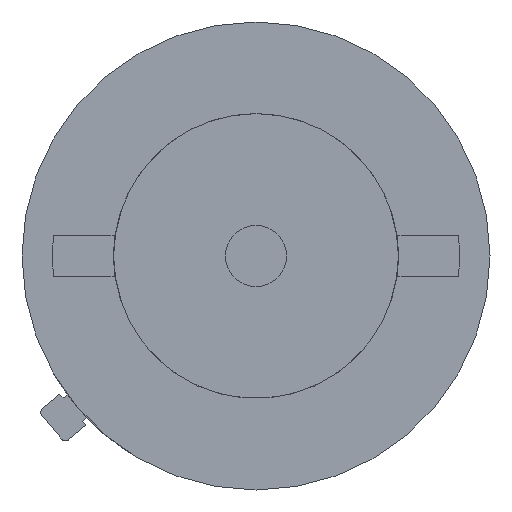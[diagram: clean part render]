
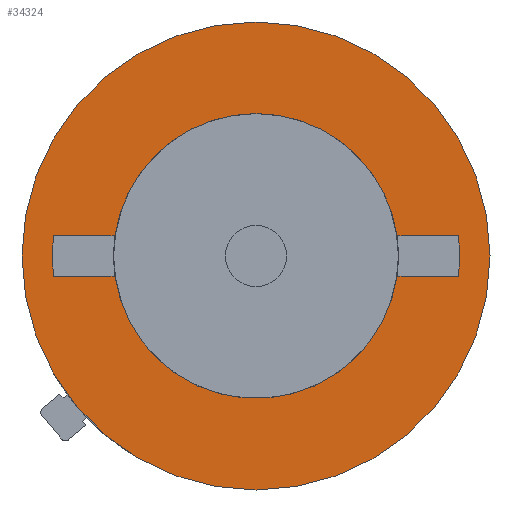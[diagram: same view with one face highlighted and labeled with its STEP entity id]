
A CAD part, front view. The second image highlights one B-rep face of the part: STEP entity #34324.
In plain terms, the highlighted planar face has unit normal (0, -1, 0).
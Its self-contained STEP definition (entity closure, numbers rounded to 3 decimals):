
#440 = CIRCLE ( 'NONE', #27797, 14. ) ;
#755 = DIRECTION ( 'NONE',  ( 0., -1., 0. ) ) ;
#899 = CARTESIAN_POINT ( 'NONE',  ( 0., -10.5, 0. ) ) ;
#1501 = VECTOR ( 'NONE', #14108, 1000. ) ;
#2129 = EDGE_CURVE ( 'NONE', #18350, #24019, #6107, .T. ) ;
#3257 = EDGE_CURVE ( 'NONE', #34589, #18350, #12035, .T. ) ;
#3336 = CARTESIAN_POINT ( 'NONE',  ( 13.856, -10.5, -2. ) ) ;
#3584 = DIRECTION ( 'NONE',  ( 0., 1., 0. ) ) ;
#4259 = VERTEX_POINT ( 'NONE', #33165 ) ;
#4713 = FACE_BOUND ( 'NONE', #29251, .T. ) ;
#4805 = EDGE_CURVE ( 'NONE', #7497, #29384, #5193, .T. ) ;
#4870 = LINE ( 'NONE', #11499, #1501 ) ;
#5043 = EDGE_LOOP ( 'NONE', ( #22894 ) ) ;
#5106 = CARTESIAN_POINT ( 'NONE',  ( 0., -10.5, 0. ) ) ;
#5193 = CIRCLE ( 'NONE', #11261, 20. ) ;
#5569 = CARTESIAN_POINT ( 'NONE',  ( -13.856, -10.5, 2. ) ) ;
#5784 = ORIENTED_EDGE ( 'NONE', *, *, #4805, .T. ) ;
#6107 = CIRCLE ( 'NONE', #16196, 20. ) ;
#7146 = CARTESIAN_POINT ( 'NONE',  ( -13.856, -10.5, -2. ) ) ;
#7497 = VERTEX_POINT ( 'NONE', #10774 ) ;
#7720 = AXIS2_PLACEMENT_3D ( 'NONE', #15789, #26571, #32489 ) ;
#7832 = DIRECTION ( 'NONE',  ( 0., 1., 0. ) ) ;
#8137 = CARTESIAN_POINT ( 'NONE',  ( -1.235, -10.5, 2. ) ) ;
#8887 = CARTESIAN_POINT ( 'NONE',  ( 19.9, -10.5, -2. ) ) ;
#9028 = DIRECTION ( 'NONE',  ( -1., 0., 0. ) ) ;
#9765 = EDGE_CURVE ( 'NONE', #18013, #29384, #20009, .T. ) ;
#10774 = CARTESIAN_POINT ( 'NONE',  ( 19.9, -10.5, 2. ) ) ;
#10785 = EDGE_CURVE ( 'NONE', #18013, #12501, #16531, .T. ) ;
#11261 = AXIS2_PLACEMENT_3D ( 'NONE', #28335, #28221, #11870 ) ;
#11499 = CARTESIAN_POINT ( 'NONE',  ( 1.235, -10.5, -2. ) ) ;
#11545 = DIRECTION ( 'NONE',  ( 0., 0., 1. ) ) ;
#11817 = ORIENTED_EDGE ( 'NONE', *, *, #14704, .T. ) ;
#11870 = DIRECTION ( 'NONE',  ( 0., 0., -1. ) ) ;
#12035 = LINE ( 'NONE', #14601, #27024 ) ;
#12368 = FACE_OUTER_BOUND ( 'NONE', #5043, .T. ) ;
#12501 = VERTEX_POINT ( 'NONE', #7146 ) ;
#12655 = AXIS2_PLACEMENT_3D ( 'NONE', #16872, #3584, #28129 ) ;
#12960 = ORIENTED_EDGE ( 'NONE', *, *, #2129, .F. ) ;
#13147 = VECTOR ( 'NONE', #24870, 1000. ) ;
#13244 = LINE ( 'NONE', #8137, #25699 ) ;
#14108 = DIRECTION ( 'NONE',  ( -1., 0., 0. ) ) ;
#14601 = CARTESIAN_POINT ( 'NONE',  ( 1.235, -10.5, 2. ) ) ;
#14704 = EDGE_CURVE ( 'NONE', #12501, #24019, #4870, .T. ) ;
#15789 = CARTESIAN_POINT ( 'NONE',  ( 0., -10.5, 0. ) ) ;
#16196 = AXIS2_PLACEMENT_3D ( 'NONE', #5106, #755, #19749 ) ;
#16456 = CIRCLE ( 'NONE', #12655, 23. ) ;
#16531 = CIRCLE ( 'NONE', #7720, 14. ) ;
#16694 = CARTESIAN_POINT ( 'NONE',  ( -19.9, -10.5, -2. ) ) ;
#16872 = CARTESIAN_POINT ( 'NONE',  ( 0., -10.5, 0. ) ) ;
#17141 = DIRECTION ( 'NONE',  ( 0., 1., 0. ) ) ;
#17952 = ORIENTED_EDGE ( 'NONE', *, *, #10785, .T. ) ;
#18013 = VERTEX_POINT ( 'NONE', #3336 ) ;
#18350 = VERTEX_POINT ( 'NONE', #31992 ) ;
#18517 = DIRECTION ( 'NONE',  ( 0., 0., 1. ) ) ;
#19400 = EDGE_CURVE ( 'NONE', #4259, #4259, #16456, .T. ) ;
#19749 = DIRECTION ( 'NONE',  ( 0., 0., -1. ) ) ;
#20009 = LINE ( 'NONE', #22131, #13147 ) ;
#22131 = CARTESIAN_POINT ( 'NONE',  ( -1.235, -10.5, -2. ) ) ;
#22219 = CARTESIAN_POINT ( 'NONE',  ( 13.856, -10.5, 2. ) ) ;
#22363 = ORIENTED_EDGE ( 'NONE', *, *, #26588, .T. ) ;
#22894 = ORIENTED_EDGE ( 'NONE', *, *, #19400, .F. ) ;
#22991 = EDGE_CURVE ( 'NONE', #33533, #7497, #13244, .T. ) ;
#23914 = PLANE ( 'NONE',  #30461 ) ;
#24019 = VERTEX_POINT ( 'NONE', #16694 ) ;
#24870 = DIRECTION ( 'NONE',  ( 1., 0., 0. ) ) ;
#25699 = VECTOR ( 'NONE', #26980, 1000. ) ;
#26571 = DIRECTION ( 'NONE',  ( 0., 1., 0. ) ) ;
#26588 = EDGE_CURVE ( 'NONE', #34589, #33533, #440, .T. ) ;
#26980 = DIRECTION ( 'NONE',  ( 1., 0., 0. ) ) ;
#27024 = VECTOR ( 'NONE', #9028, 1000. ) ;
#27797 = AXIS2_PLACEMENT_3D ( 'NONE', #899, #17141, #11545 ) ;
#28129 = DIRECTION ( 'NONE',  ( 0., 0., 1. ) ) ;
#28221 = DIRECTION ( 'NONE',  ( 0., 1., 0. ) ) ;
#28335 = CARTESIAN_POINT ( 'NONE',  ( 0., -10.5, 0. ) ) ;
#28753 = ORIENTED_EDGE ( 'NONE', *, *, #9765, .F. ) ;
#29251 = EDGE_LOOP ( 'NONE', ( #35065, #5784, #28753, #17952, #11817, #12960, #33301, #22363 ) ) ;
#29384 = VERTEX_POINT ( 'NONE', #8887 ) ;
#30461 = AXIS2_PLACEMENT_3D ( 'NONE', #35038, #7832, #18517 ) ;
#31992 = CARTESIAN_POINT ( 'NONE',  ( -19.9, -10.5, 2. ) ) ;
#32489 = DIRECTION ( 'NONE',  ( 0., 0., 1. ) ) ;
#33165 = CARTESIAN_POINT ( 'NONE',  ( 0., -10.5, 23. ) ) ;
#33301 = ORIENTED_EDGE ( 'NONE', *, *, #3257, .F. ) ;
#33533 = VERTEX_POINT ( 'NONE', #22219 ) ;
#34324 = ADVANCED_FACE ( 'NONE', ( #12368, #4713 ), #23914, .F. ) ;
#34589 = VERTEX_POINT ( 'NONE', #5569 ) ;
#35038 = CARTESIAN_POINT ( 'NONE',  ( 23., -10.5, 0. ) ) ;
#35065 = ORIENTED_EDGE ( 'NONE', *, *, #22991, .T. ) ;
